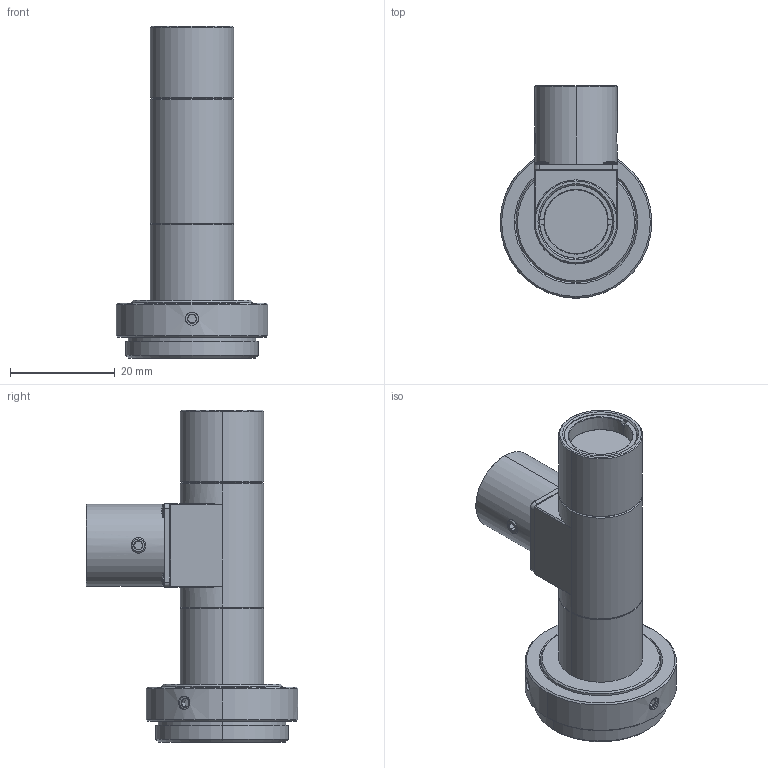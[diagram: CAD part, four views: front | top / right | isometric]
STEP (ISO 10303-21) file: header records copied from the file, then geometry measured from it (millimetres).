
FILE_DESCRIPTION (( 'STEP AP203' ), '1' );
FILE_NAME ('MML3-ST65DS_A03839A0100101A-001.STEP', '2013-12-12T00:36:53', ( 'SCHOTT' ), ( 'SCHOTT' ), 'SwSTEP 2.0', 'SolidWorks 2011', '' );
FILE_SCHEMA (( 'CONFIG_CONTROL_DESIGN' ));
Length unit declared in the file: millimetre
Products named in the file (1): MML3-ST65DS_A03839A0100101A-001
Bounding box: 29 x 40.5 x 63.46 mm (x, y, z)
Volume: 15753.9 mm3; surface area: 7731.7 mm2
Topology: 1 solids, 6 shells, 402 faces, 960 edges, 584 vertices
Faces by surface type: plane 170, cone 135, cylinder 73, torus 16, sphere 8
Entity records: 12209 total; most frequent: CARTESIAN_POINT 2908, DIRECTION 2012, ORIENTED_EDGE 1904, EDGE_CURVE 952, AXIS2_PLACEMENT_3D 846, VERTEX_POINT 584, CIRCLE 443, EDGE_LOOP 436
